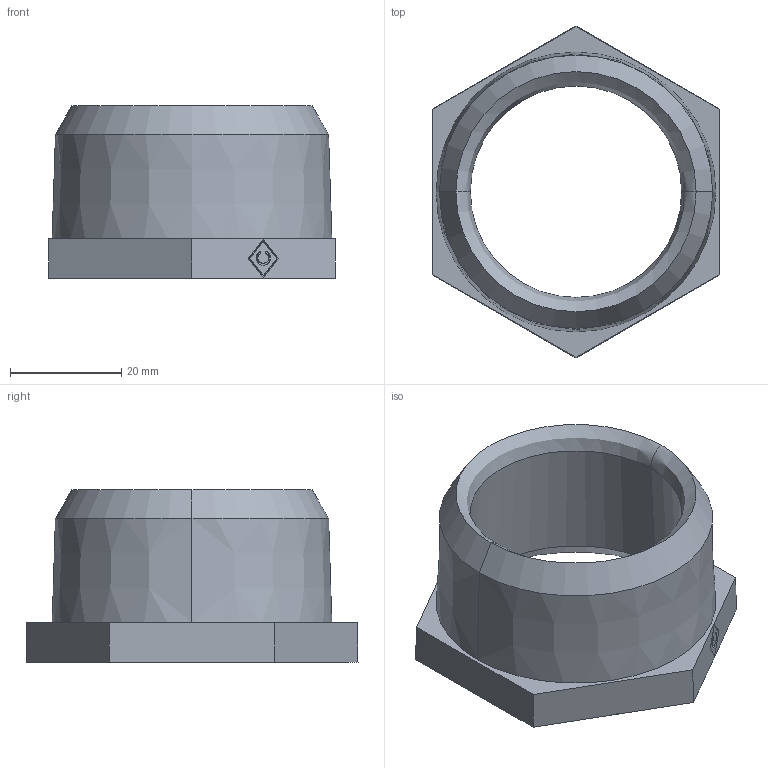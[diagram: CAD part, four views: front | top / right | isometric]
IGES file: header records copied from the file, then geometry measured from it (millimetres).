
Global section: file name: No Iges File Name specified; native system: AutoDesk Inventor R12.0; preprocessor: AutoDesk Inventor Iges Exporter R12.0; date: 20090914.112436; units: millimetre
Bounding box: 51.7 x 59.7 x 31 mm (x, y, z)
Volume: 21558.8 mm3; surface area: 10029.3 mm2
Topology: 1 solids, 1 shells, 39 faces, 97 edges, 62 vertices
Faces by surface type: plane 21, bspline 10, cone 4, revolution 4
